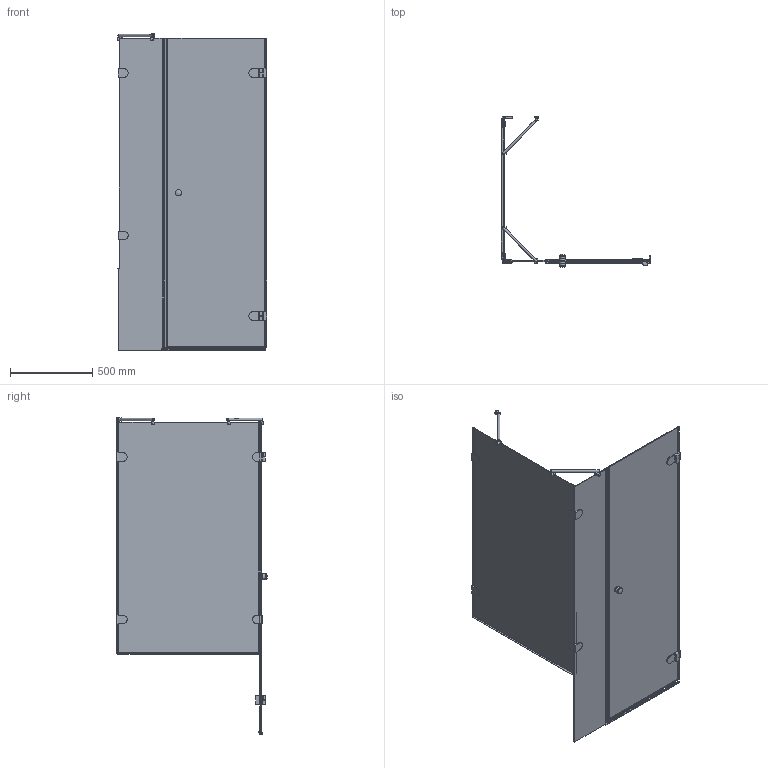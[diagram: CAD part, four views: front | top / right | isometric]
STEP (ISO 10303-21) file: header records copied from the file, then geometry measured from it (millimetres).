
FILE_DESCRIPTION(/* description */ (''),/* implementation_level */ '2;1');
FILE_NAME(/* name */ 'E:\Работа\Сергей\Душевые кабинки\! Работа\! 003AV_LUX\LUX SQUARE GK-003AV\LUX SQUARE GK-003AV правая модель\LUX SQUARE GK-003AV ПРАВАЯ-3D.stp',/* time_stamp */ '2017-10-15T19:48:43+03:00',/* author */ ('PC'),/* organization */ (''),/* preprocessor_version */ 'ST-DEVELOPER v15.2',/* originating_system */ 'Autodesk Inventor 2014',/* authorisation */ '');
FILE_SCHEMA (('AUTOMOTIVE_DESIGN { 1 0 10303 214 3 1 1 }'));
Length unit declared in the file: millimetre
Products named in the file (1): LUX SQUARE GK-003AV ПРАВАЯ-3
D
Bounding box: 910.13 x 918 x 1931.49 mm (x, y, z)
Volume: 18528224.8 mm3; surface area: 6372078.6 mm2
Topology: 18 solids, 24 shells, 662 faces, 1819 edges, 1203 vertices
Faces by surface type: plane 429, cylinder 184, bspline 16, torus 16, sphere 15, cone 2
Full cylindrical faces by diameter (mm): 15 x2, 20 x4, 26 x1, 35 x6, 38 x4, 40 x2
Entity records: 21960 total; most frequent: CARTESIAN_POINT 4479, ORIENTED_EDGE 3512, DIRECTION 3454, EDGE_CURVE 1756, LINE 1228, VECTOR 1228, VERTEX_POINT 1180, AXIS2_PLACEMENT_3D 1113
